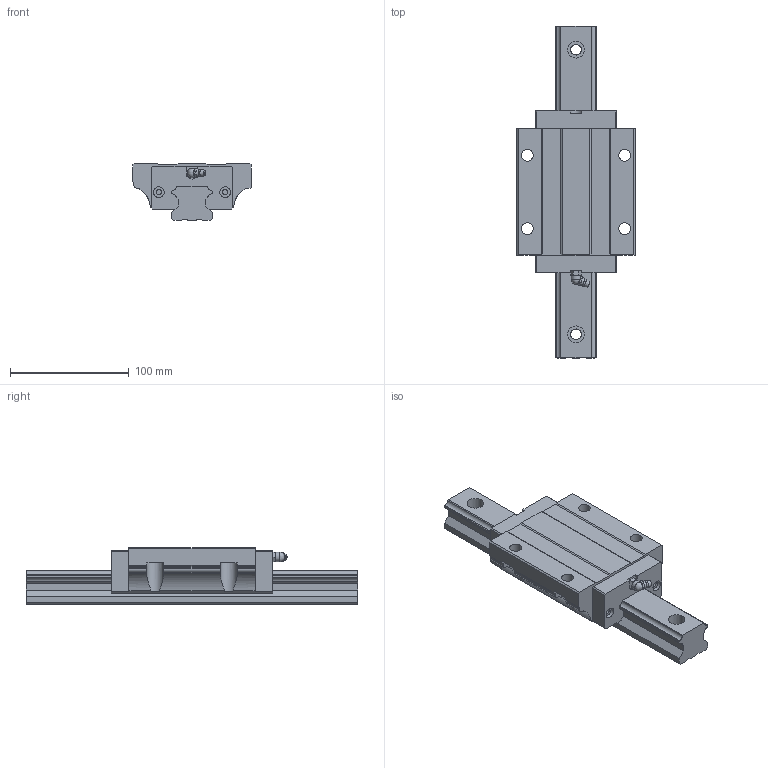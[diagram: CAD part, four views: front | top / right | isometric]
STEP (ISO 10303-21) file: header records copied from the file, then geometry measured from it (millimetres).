
FILE_DESCRIPTION(/* description */ (''),/* implementation_level */ '2;1');
FILE_NAME(/* name */ 'MSA15LE',/* time_stamp */ '2003-12-26T14:32:43+08:00',/* author */ (''),/* organization */ (''),/* preprocessor_version */ 'ST-DEVELOPER v9',/* originating_system */ '',/* authorisation */ '');
FILE_SCHEMA (('CONFIG_CONTROL_DESIGN'));
Length unit declared in the file: millimetre
Products named in the file (1): zircDFD6hlyy
Bounding box: 100 x 280 x 48 mm (x, y, z)
Volume: 569976.7 mm3; surface area: 91258.3 mm2
Topology: 3 solids, 3 shells, 219 faces, 605 edges, 400 vertices
Faces by surface type: plane 155, cylinder 53, torus 7, sphere 2, cone 1, bspline 1
Full cylindrical faces by diameter (mm): 4.5 x4, 8 x1, 9 x8, 10 x4, 14 x4
Entity records: 7031 total; most frequent: CARTESIAN_POINT 1388, ORIENTED_EDGE 1142, DIRECTION 1134, EDGE_CURVE 571, LINE 394, VECTOR 394, VERTEX_POINT 392, AXIS2_PLACEMENT_3D 370
